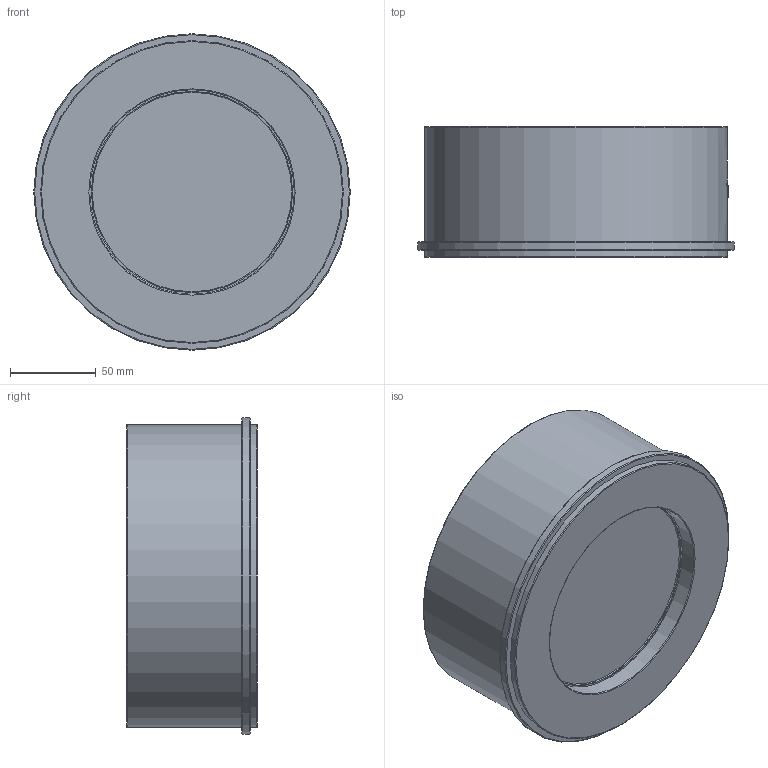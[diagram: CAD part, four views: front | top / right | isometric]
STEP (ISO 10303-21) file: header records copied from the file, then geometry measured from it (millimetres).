
FILE_DESCRIPTION(('STEP AP242'), '1');
FILE_NAME('VCS3232-Fb Êëàïàí îáðàòíûé ïðóæèííûé DN.ru Äó125 Ðó25', '', ('UNSPECIFIED'), ('UNSPECIFIED'), 'C3D Converter', 'C3D Toolkit', '');
FILE_SCHEMA(('AP242_MANAGED_MODEL_BASED_3D_ENGINEERING_MIM_LF { 1 0 10303 442 1 1 4 }'));
Length unit declared in the file: millimetre
Products named in the file (1): VCS3232-Fb
Bounding box: 184 x 76 x 184 mm (x, y, z)
Volume: 611108.4 mm3; surface area: 172044.7 mm2
Topology: 1 solids, 1 shells, 137 faces, 363 edges, 244 vertices
Faces by surface type: plane 53, extrusion 40, cylinder 29, torus 10, bspline 3, cone 2
Full cylindrical faces by diameter (mm): 17 x2, 33 x2, 117 x1, 119 x1, 127 x1, 128 x1, 136 x1, 160 x1, 176 x2, 184 x1
Entity records: 10161 total; most frequent: CARTESIAN_POINT 6907, ORIENTED_EDGE 670, DIRECTION 545, EDGE_CURVE 335, VERTEX_POINT 244, AXIS2_PLACEMENT_3D 199, EDGE_LOOP 189, FACE_BOUND 168
